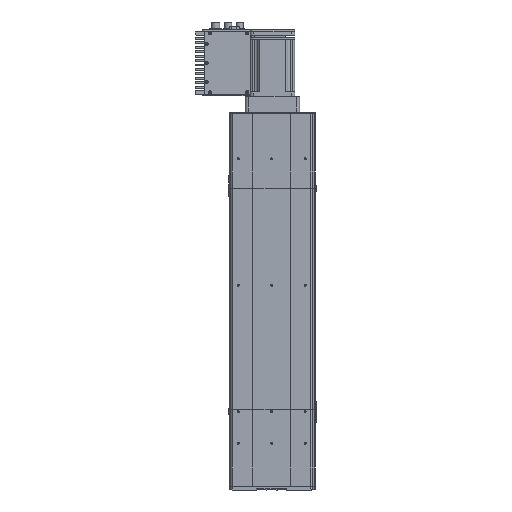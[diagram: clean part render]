
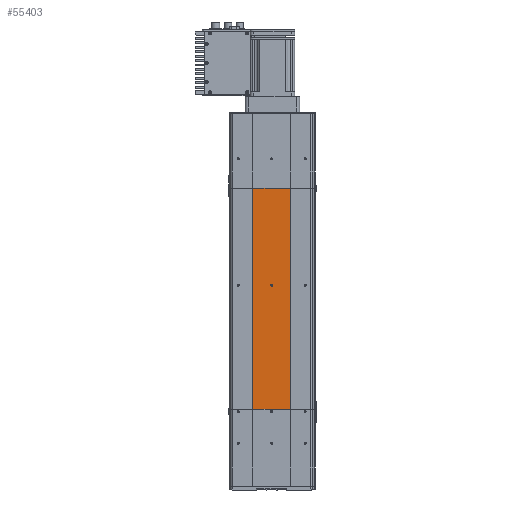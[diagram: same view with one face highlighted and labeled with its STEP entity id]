
A CAD part, front view. The second image highlights one B-rep face of the part: STEP entity #55403.
In plain terms, the highlighted planar face has unit normal (-0.034, -0.999, 0) as drawn and (0, -1, 0) by its records, which use the part's own axes.
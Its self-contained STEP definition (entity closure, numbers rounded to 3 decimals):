
#48243 = DIRECTION ( 'NONE',  ( 1., 0., 0. ) ) ;
#48245 = DIRECTION ( 'NONE',  ( 0., -1., 0. ) ) ;
#48246 = CARTESIAN_POINT ( 'NONE',  ( 0., -32.5, 153.7 ) ) ;
#48248 = AXIS2_PLACEMENT_3D ( 'NONE', #48246, #48245, #48243 ) ;
#48261 = CIRCLE ( 'NONE', #48248, 1.6 ) ;
#48505 = CARTESIAN_POINT ( 'NONE',  ( -1.6, -32.5, 153.7 ) ) ;
#48883 = CARTESIAN_POINT ( 'NONE',  ( 1.6, -32.5, 153.7 ) ) ;
#49068 = EDGE_CURVE ( 'NONE', #49216, #49350, #48261, .T. ) ;
#49216 = VERTEX_POINT ( 'NONE', #48505 ) ;
#49350 = VERTEX_POINT ( 'NONE', #48883 ) ;
#50472 = EDGE_CURVE ( 'NONE', #49350, #49216, #51294, .T. ) ;
#51265 = DIRECTION ( 'NONE',  ( 1., 0., 0. ) ) ;
#51269 = VERTEX_POINT ( 'NONE', #53141 ) ;
#51280 = CARTESIAN_POINT ( 'NONE',  ( 0., -32.5, 153.7 ) ) ;
#51294 = CIRCLE ( 'NONE', #51300, 1.6 ) ;
#51300 = AXIS2_PLACEMENT_3D ( 'NONE', #51280, #51310, #51265 ) ;
#51310 = DIRECTION ( 'NONE',  ( 0., -1., 0. ) ) ;
#51340 = EDGE_CURVE ( 'NONE', #51396, #51269, #53377, .T. ) ;
#51396 = VERTEX_POINT ( 'NONE', #53420 ) ;
#52231 = VERTEX_POINT ( 'NONE', #54670 ) ;
#53141 = CARTESIAN_POINT ( 'NONE',  ( -30., -32.5, 350. ) ) ;
#53373 = DIRECTION ( 'NONE',  ( 0., 0., 1. ) ) ;
#53374 = VECTOR ( 'NONE', #53373, 1000. ) ;
#53376 = CARTESIAN_POINT ( 'NONE',  ( -30., -32.5, 0. ) ) ;
#53377 = LINE ( 'NONE', #53376, #53374 ) ;
#53420 = CARTESIAN_POINT ( 'NONE',  ( -30., -32.5, 0. ) ) ;
#54670 = CARTESIAN_POINT ( 'NONE',  ( 30., -32.5, 350. ) ) ;
#55403 = ADVANCED_FACE ( 'NONE', ( #59432, #59428 ), #59407, .F. ) ;
#55407 = EDGE_LOOP ( 'NONE', ( #55476, #55438, #55499, #55500 ) ) ;
#55410 = EDGE_LOOP ( 'NONE', ( #55551, #55477 ) ) ;
#55438 = ORIENTED_EDGE ( 'NONE', *, *, #51340, .F. ) ;
#55451 = EDGE_CURVE ( 'NONE', #57324, #51396, #59462, .T. ) ;
#55476 = ORIENTED_EDGE ( 'NONE', *, *, #55544, .F. ) ;
#55477 = ORIENTED_EDGE ( 'NONE', *, *, #49068, .F. ) ;
#55499 = ORIENTED_EDGE ( 'NONE', *, *, #55451, .F. ) ;
#55500 = ORIENTED_EDGE ( 'NONE', *, *, #57342, .F. ) ;
#55544 = EDGE_CURVE ( 'NONE', #51269, #52231, #59594, .T. ) ;
#55551 = ORIENTED_EDGE ( 'NONE', *, *, #50472, .F. ) ;
#57324 = VERTEX_POINT ( 'NONE', #62888 ) ;
#57342 = EDGE_CURVE ( 'NONE', #52231, #57324, #62881, .T. ) ;
#59400 = DIRECTION ( 'NONE',  ( -1., 0., 0. ) ) ;
#59402 = DIRECTION ( 'NONE',  ( 0., 1., 0. ) ) ;
#59403 = CARTESIAN_POINT ( 'NONE',  ( -30., -32.5, 0. ) ) ;
#59405 = AXIS2_PLACEMENT_3D ( 'NONE', #59403, #59402, #59400 ) ;
#59407 = PLANE ( 'NONE',  #59405 ) ;
#59428 = FACE_BOUND ( 'NONE', #55410, .T. ) ;
#59432 = FACE_OUTER_BOUND ( 'NONE', #55407, .T. ) ;
#59434 = DIRECTION ( 'NONE',  ( -1., 0., 0. ) ) ;
#59436 = VECTOR ( 'NONE', #59434, 1000. ) ;
#59462 = LINE ( 'NONE', #59498, #59436 ) ;
#59498 = CARTESIAN_POINT ( 'NONE',  ( -67.5, -32.5, 0. ) ) ;
#59585 = DIRECTION ( 'NONE',  ( 1., 0., 0. ) ) ;
#59591 = VECTOR ( 'NONE', #59585, 1000. ) ;
#59592 = CARTESIAN_POINT ( 'NONE',  ( 0., -32.5, 350. ) ) ;
#59594 = LINE ( 'NONE', #59592, #59591 ) ;
#62879 = CARTESIAN_POINT ( 'NONE',  ( 30., -32.5, 0. ) ) ;
#62881 = LINE ( 'NONE', #62879, #63002 ) ;
#62888 = CARTESIAN_POINT ( 'NONE',  ( 30., -32.5, 0. ) ) ;
#63001 = DIRECTION ( 'NONE',  ( 0., 0., -1. ) ) ;
#63002 = VECTOR ( 'NONE', #63001, 1000. ) ;
